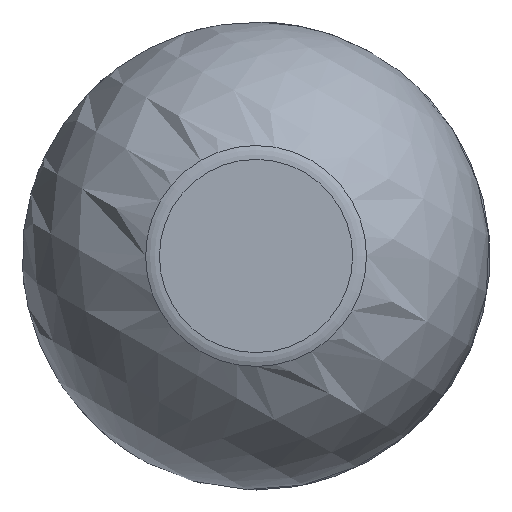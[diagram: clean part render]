
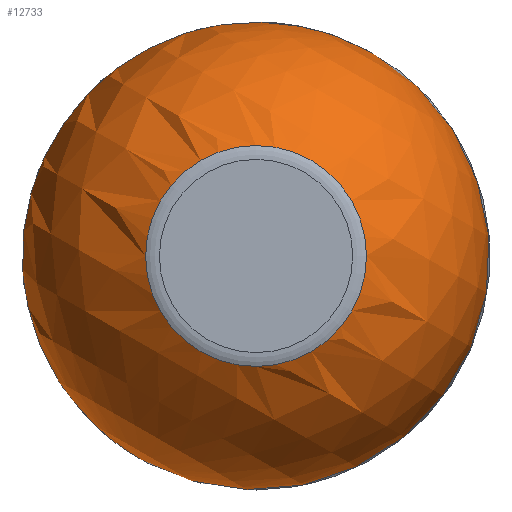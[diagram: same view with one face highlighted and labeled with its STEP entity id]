
A CAD part, left-side view. The second image highlights one B-rep face of the part: STEP entity #12733.
In plain terms, the highlighted spherical face has radius 12.179 mm.
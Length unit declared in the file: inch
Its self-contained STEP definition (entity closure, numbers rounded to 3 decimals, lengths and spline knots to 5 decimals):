
#756=SPHERICAL_SURFACE('',#13549,0.4795);
#3075=FACE_BOUND('',#4008,.T.);
#3076=FACE_BOUND('',#4009,.T.);
#4008=EDGE_LOOP('',(#8504));
#4009=EDGE_LOOP('',(#8505));
#4831=CIRCLE('',#13541,0.26464);
#4834=CIRCLE('',#13548,0.2265);
#5168=VERTEX_POINT('',#17195);
#5171=VERTEX_POINT('',#17205);
#6498=EDGE_CURVE('',#5168,#5168,#4831,.T.);
#6501=EDGE_CURVE('',#5171,#5171,#4834,.T.);
#8504=ORIENTED_EDGE('',*,*,#6498,.T.);
#8505=ORIENTED_EDGE('',*,*,#6501,.T.);
#12733=ADVANCED_FACE('',(#3075,#3076),#756,.T.);
#13541=AXIS2_PLACEMENT_3D('',#17196,#14451,#14452);
#13548=AXIS2_PLACEMENT_3D('',#17206,#14465,#14466);
#13549=AXIS2_PLACEMENT_3D('',#17207,#14467,#14468);
#14451=DIRECTION('center_axis',(-1.,0.,0.));
#14452=DIRECTION('ref_axis',(0.,0.,-1.));
#14465=DIRECTION('center_axis',(1.,0.,0.));
#14466=DIRECTION('ref_axis',(0.,0.,-1.));
#14467=DIRECTION('center_axis',(0.,0.,1.));
#14468=DIRECTION('ref_axis',(1.,0.,0.));
#17195=CARTESIAN_POINT('',(-0.46231,0.14868,0.));
#17196=CARTESIAN_POINT('Origin',(-0.46231,0.41332,0.));
#17205=CARTESIAN_POINT('',(-1.2848,0.63982,0.));
#17206=CARTESIAN_POINT('Origin',(-1.2848,0.41332,0.));
#17207=CARTESIAN_POINT('Origin',(-0.86217,0.41332,0.));
